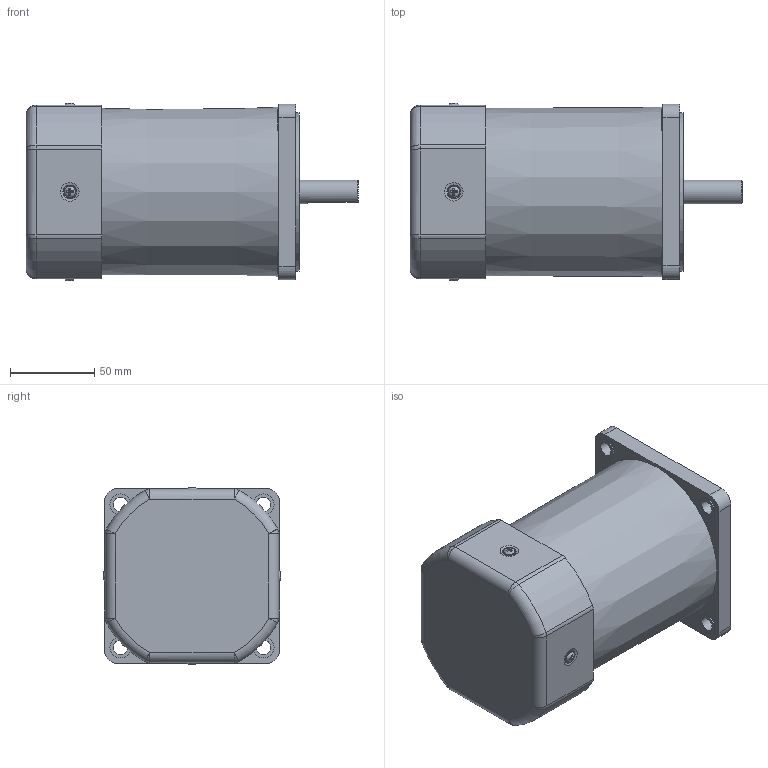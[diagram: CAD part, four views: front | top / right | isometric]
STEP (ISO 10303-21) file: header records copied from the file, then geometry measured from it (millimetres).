
FILE_DESCRIPTION((''),'2;1');
FILE_NAME('D:\yang\Yang cw\SPG 업무\2. DC MOTOR\7. DC MOTOR 브로슈어\AC MOTOR\104R각 200W\S10I200D_.stp','2015-03-30T14:22:00',('ycw1227'),(''),'Autodesk Inventor 2013','Autodesk Inventor 2013','');
FILE_SCHEMA(('AUTOMOTIVE_DESIGN { 1 0 10303 214 1 1 1 1 }'));
Length unit declared in the file: millimetre
Products named in the file (1): 부품65
Bounding box: 197 x 105.57 x 105.48 mm (x, y, z)
Volume: 1155832 mm3; surface area: 115961.9 mm2
Topology: 1 solids, 3 shells, 232 faces, 571 edges, 352 vertices
Faces by surface type: plane 100, cylinder 69, torus 23, cone 20, bspline 20
Full cylindrical faces by diameter (mm): 2.778 x1, 4 x4, 5 x4, 7 x4, 8.5 x4, 12.5 x4, 14 x1, 43 x1, 94 x1, 98 x1
Entity records: 7809 total; most frequent: CARTESIAN_POINT 2729, DIRECTION 966, ORIENTED_EDGE 924, EDGE_CURVE 462, AXIS2_PLACEMENT_3D 381, EDGE_LOOP 335, VERTEX_POINT 323, FACE_OUTER_BOUND 232
